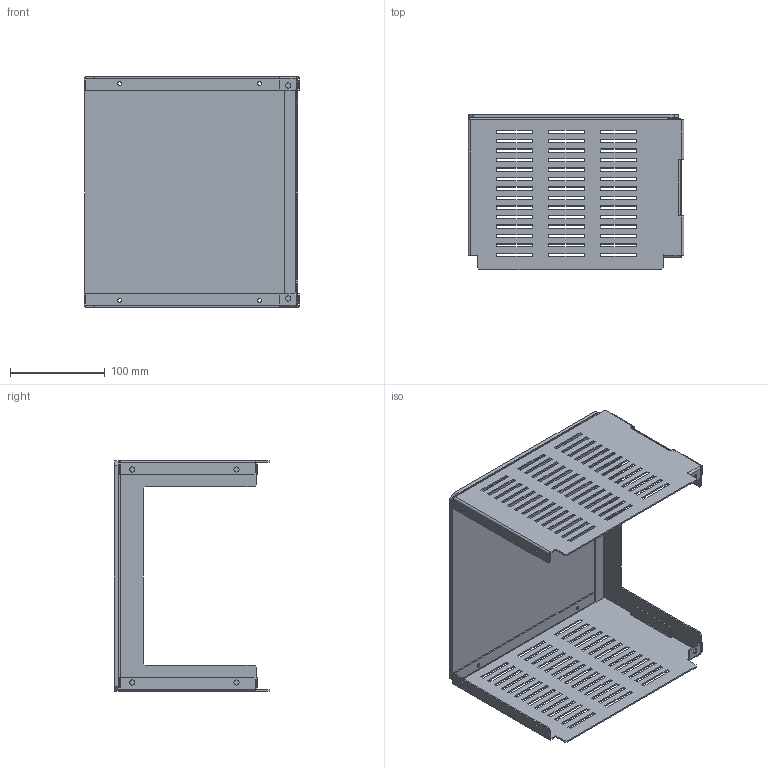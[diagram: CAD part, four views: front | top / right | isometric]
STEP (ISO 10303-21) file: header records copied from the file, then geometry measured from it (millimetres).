
FILE_DESCRIPTION(('CAx-IF Rec.Pracs.---Model Styling and Organization---1.2---2011-12-15','CAx-IF Rec.Pracs.---Geometric and Assembly Validation Properties---4.1---2014-06-16','CAx-IF Rec.Pracs.---PMI Polyline Presentation---2.0---2013-05-24'),'2;1');
FILE_NAME('R5M2W5MRB4.stp','2021-05-05T13:09:05+03:00',(''),(''),'STEP Interface 4.4 by CT CoreTechnologie','3D_Evolution4.4 by CT CoreTechnologie','');
FILE_SCHEMA(('AUTOMOTIVE_DESIGN { 1 0 10303 214 1 1 1 1 }'));
Length unit declared in the file: millimetre
Products named in the file (5): R5M2W5MRB4; RB.1462.00.00.0_-03; RB.1469.00.00.0_-01; RB.1461.00.00.0_-03; RB.1469.00.00.0_-00
Assembly tree (4 placements, depth 2):
  R5M2W5MRB4
    RB.1462.00.00.0_-03
    RB.1469.00.00.0_-01
    RB.1461.00.00.0_-03
    RB.1469.00.00.0_-00
Bounding box: 228 x 164 x 243 mm (x, y, z)
Surface area: 302460.3 mm2 (no closed solid volume)
Topology: 0 solids, 4 shells, 544 faces, 1552 edges, 1016 vertices
Faces by surface type: plane 488, cylinder 54, bspline 2
Entity records: 18067 total; most frequent: CARTESIAN_POINT 3220, ORIENTED_EDGE 3104, DIRECTION 2751, EDGE_CURVE 1552, VECTOR 1441, LINE 1441, VERTEX_POINT 1016, EDGE_LOOP 740
